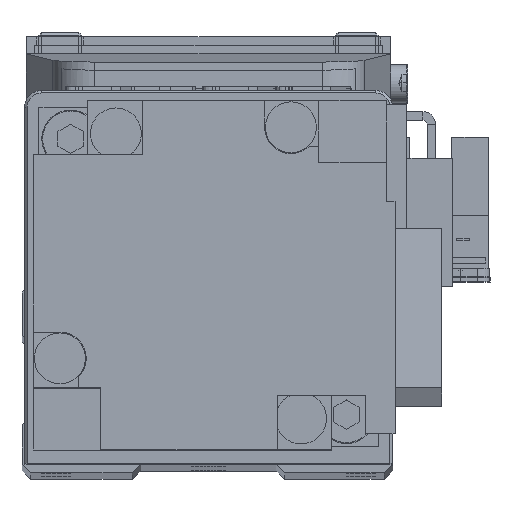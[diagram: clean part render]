
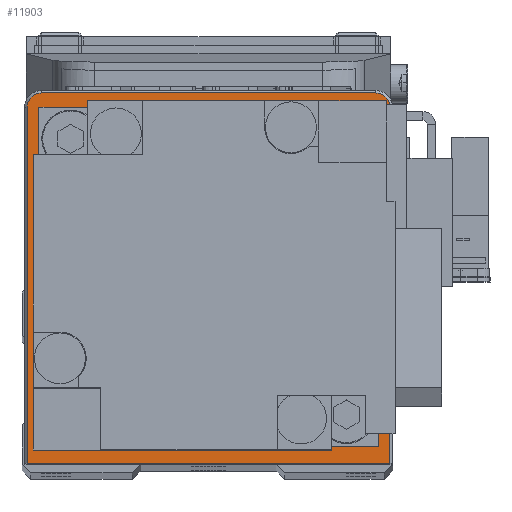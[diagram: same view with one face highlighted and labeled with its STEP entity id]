
A CAD part, top view. The second image highlights one B-rep face of the part: STEP entity #11903.
In plain terms, the highlighted planar face has unit normal (0, 0, 1).
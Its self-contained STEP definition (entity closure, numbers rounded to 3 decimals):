
#439 = EDGE_CURVE ( 'NONE', #34229, #31930, #10980, .T. ) ;
#536 = CARTESIAN_POINT ( 'NONE',  ( -19.7, 21.7, 26.5 ) ) ;
#877 = AXIS2_PLACEMENT_3D ( 'NONE', #7824, #19450, #31051 ) ;
#1433 = DIRECTION ( 'NONE',  ( 0., 0., 1. ) ) ;
#1809 = CARTESIAN_POINT ( 'NONE',  ( 21.4, 20., 26.5 ) ) ;
#2430 = EDGE_CURVE ( 'NONE', #9566, #6512, #33697, .T. ) ;
#2851 = ORIENTED_EDGE ( 'NONE', *, *, #20683, .F. ) ;
#4425 = VERTEX_POINT ( 'NONE', #536 ) ;
#4737 = DIRECTION ( 'NONE',  ( 1., 0., 0. ) ) ;
#6512 = VERTEX_POINT ( 'NONE', #16858 ) ;
#6830 = DIRECTION ( 'NONE',  ( -1., 0., 0. ) ) ;
#7376 = CARTESIAN_POINT ( 'NONE',  ( -10., 0., 26.5 ) ) ;
#7824 = CARTESIAN_POINT ( 'NONE',  ( 19.7, 20., 26.5 ) ) ;
#7828 = VERTEX_POINT ( 'NONE', #12923 ) ;
#7883 = VERTEX_POINT ( 'NONE', #7376 ) ;
#9502 = ORIENTED_EDGE ( 'NONE', *, *, #20374, .T. ) ;
#9566 = VERTEX_POINT ( 'NONE', #1809 ) ;
#9763 = CARTESIAN_POINT ( 'NONE',  ( 0., 0., 26.5 ) ) ;
#10980 = LINE ( 'NONE', #22607, #14687 ) ;
#11413 = DIRECTION ( 'NONE',  ( 0., -1., 0. ) ) ;
#11578 = DIRECTION ( 'NONE',  ( 0., 0., 1. ) ) ;
#11903 = ADVANCED_FACE ( 'NONE', ( #12616, #24224 ), #35808, .T. ) ;
#12452 = EDGE_CURVE ( 'NONE', #4425, #7828, #37395, .T. ) ;
#12616 = FACE_OUTER_BOUND ( 'NONE', #35252, .T. ) ;
#12757 = ORIENTED_EDGE ( 'NONE', *, *, #12452, .T. ) ;
#12923 = CARTESIAN_POINT ( 'NONE',  ( -21.4, 20., 26.5 ) ) ;
#12997 = ORIENTED_EDGE ( 'NONE', *, *, #24773, .T. ) ;
#13055 = DIRECTION ( 'NONE',  ( 1., 0., 0. ) ) ;
#13825 = EDGE_CURVE ( 'NONE', #31930, #9566, #13894, .T. ) ;
#13894 = LINE ( 'NONE', #25509, #26470 ) ;
#14346 = CARTESIAN_POINT ( 'NONE',  ( -21.4, -22., 26.5 ) ) ;
#14561 = EDGE_CURVE ( 'NONE', #22306, #7883, #35850, .T. ) ;
#14580 = ORIENTED_EDGE ( 'NONE', *, *, #2430, .T. ) ;
#14687 = VECTOR ( 'NONE', #34193, 1000. ) ;
#15030 = EDGE_LOOP ( 'NONE', ( #2851, #28210 ) ) ;
#15101 = VECTOR ( 'NONE', #11413, 1000. ) ;
#15318 = AXIS2_PLACEMENT_3D ( 'NONE', #34730, #11578, #23210 ) ;
#16858 = CARTESIAN_POINT ( 'NONE',  ( 19.7, 21.7, 26.5 ) ) ;
#19225 = CARTESIAN_POINT ( 'NONE',  ( -19.7, 20., 26.5 ) ) ;
#19249 = ORIENTED_EDGE ( 'NONE', *, *, #439, .T. ) ;
#19450 = DIRECTION ( 'NONE',  ( 0., 0., 1. ) ) ;
#19475 = AXIS2_PLACEMENT_3D ( 'NONE', #27533, #1433, #13055 ) ;
#20374 = EDGE_CURVE ( 'NONE', #6512, #4425, #21293, .T. ) ;
#20683 = EDGE_CURVE ( 'NONE', #7883, #22306, #31725, .T. ) ;
#20986 = AXIS2_PLACEMENT_3D ( 'NONE', #19225, #30815, #4737 ) ;
#21293 = LINE ( 'NONE', #32899, #22536 ) ;
#21383 = DIRECTION ( 'NONE',  ( 0., 0., 1. ) ) ;
#22233 = CARTESIAN_POINT ( 'NONE',  ( 21.4, -22., 26.5 ) ) ;
#22306 = VERTEX_POINT ( 'NONE', #34551 ) ;
#22536 = VECTOR ( 'NONE', #6830, 1000. ) ;
#22607 = CARTESIAN_POINT ( 'NONE',  ( -21.7, -22., 26.5 ) ) ;
#23210 = DIRECTION ( 'NONE',  ( 1., 0., 0. ) ) ;
#24224 = FACE_BOUND ( 'NONE', #15030, .T. ) ;
#24773 = EDGE_CURVE ( 'NONE', #7828, #34229, #25889, .T. ) ;
#25509 = CARTESIAN_POINT ( 'NONE',  ( 21.4, 20., 26.5 ) ) ;
#25889 = LINE ( 'NONE', #37474, #15101 ) ;
#26470 = VECTOR ( 'NONE', #37102, 1000. ) ;
#27533 = CARTESIAN_POINT ( 'NONE',  ( 0., 0., 26.5 ) ) ;
#28210 = ORIENTED_EDGE ( 'NONE', *, *, #14561, .F. ) ;
#30815 = DIRECTION ( 'NONE',  ( 0., 0., 1. ) ) ;
#31051 = DIRECTION ( 'NONE',  ( 1., 0., 0. ) ) ;
#31725 = CIRCLE ( 'NONE', #15318, 10. ) ;
#31930 = VERTEX_POINT ( 'NONE', #22233 ) ;
#32899 = CARTESIAN_POINT ( 'NONE',  ( -19.7, 21.7, 26.5 ) ) ;
#32978 = DIRECTION ( 'NONE',  ( 1., 0., 0. ) ) ;
#33082 = AXIS2_PLACEMENT_3D ( 'NONE', #9763, #21383, #32978 ) ;
#33697 = CIRCLE ( 'NONE', #877, 1.7 ) ;
#34193 = DIRECTION ( 'NONE',  ( 1., 0., 0. ) ) ;
#34201 = ORIENTED_EDGE ( 'NONE', *, *, #13825, .T. ) ;
#34229 = VERTEX_POINT ( 'NONE', #14346 ) ;
#34551 = CARTESIAN_POINT ( 'NONE',  ( 10., 0., 26.5 ) ) ;
#34730 = CARTESIAN_POINT ( 'NONE',  ( 0., 0., 26.5 ) ) ;
#35252 = EDGE_LOOP ( 'NONE', ( #19249, #34201, #14580, #9502, #12757, #12997 ) ) ;
#35808 = PLANE ( 'NONE',  #33082 ) ;
#35850 = CIRCLE ( 'NONE', #19475, 10. ) ;
#37102 = DIRECTION ( 'NONE',  ( 0., 1., 0. ) ) ;
#37395 = CIRCLE ( 'NONE', #20986, 1.7 ) ;
#37474 = CARTESIAN_POINT ( 'NONE',  ( -21.4, -22., 26.5 ) ) ;
